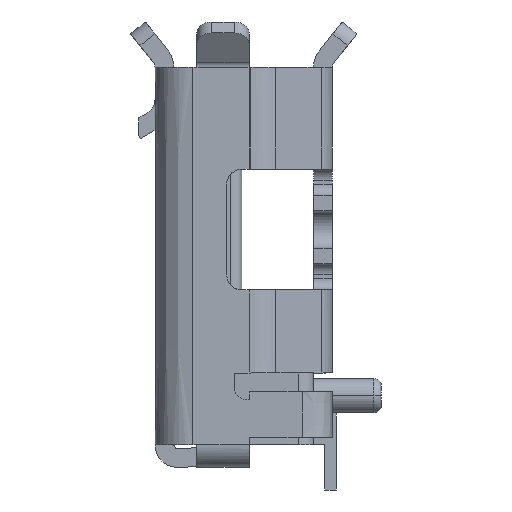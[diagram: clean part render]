
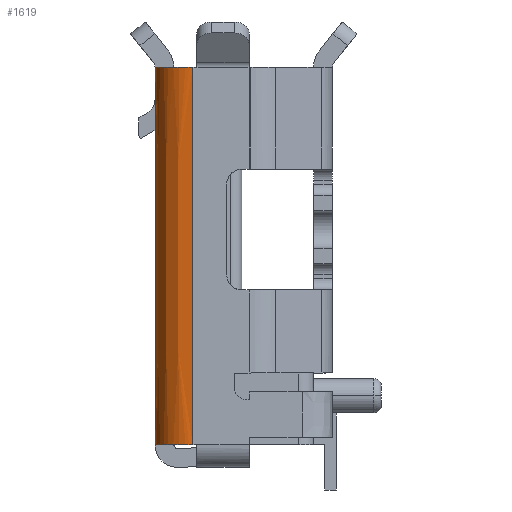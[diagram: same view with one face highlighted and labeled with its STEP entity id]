
A CAD part, left-side view. The second image highlights one B-rep face of the part: STEP entity #1619.
In plain terms, the highlighted face is a extrusion surface.
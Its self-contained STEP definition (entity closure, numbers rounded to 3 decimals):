
#453=CARTESIAN_POINT('Vertex',(-3.2,0.3,-1.5)) ;
#456=CARTESIAN_POINT('Line Origine',(-3.2,0.3,1.)) ;
#460=CARTESIAN_POINT('Vertex',(-3.2,0.3,3.5)) ;
#1560=CARTESIAN_POINT('Vertex',(-3.7,-0.2,-1.5)) ;
#1564=CARTESIAN_POINT('Control Point',(-3.2,0.3,-1.5)) ;
#1565=CARTESIAN_POINT('Control Point',(-3.263,0.3,-1.5)) ;
#1566=CARTESIAN_POINT('Control Point',(-3.326,0.29,-1.5)) ;
#1567=CARTESIAN_POINT('Control Point',(-3.387,0.27,-1.5)) ;
#1568=CARTESIAN_POINT('Control Point',(-3.5,0.212,-1.5)) ;
#1569=CARTESIAN_POINT('Control Point',(-3.59,0.123,-1.5)) ;
#1570=CARTESIAN_POINT('Control Point',(-3.627,0.071,-1.5)) ;
#1571=CARTESIAN_POINT('Control Point',(-3.67,-0.014,-1.5)) ;
#1572=CARTESIAN_POINT('Control Point',(-3.692,-0.106,-1.5)) ;
#1573=CARTESIAN_POINT('Control Point',(-3.697,-0.137,-1.5)) ;
#1574=CARTESIAN_POINT('Control Point',(-3.7,-0.169,-1.5)) ;
#1575=CARTESIAN_POINT('Control Point',(-3.7,-0.2,-1.5)) ;
#1591=CARTESIAN_POINT('Control Point',(-3.2,0.3,-1.5)) ;
#1592=CARTESIAN_POINT('Control Point',(-3.396,0.3,-1.5)) ;
#1593=CARTESIAN_POINT('Control Point',(-3.595,0.195,-1.5)) ;
#1594=CARTESIAN_POINT('Control Point',(-3.7,-0.004,-1.5)) ;
#1595=CARTESIAN_POINT('Control Point',(-3.7,-0.2,-1.5)) ;
#1599=CARTESIAN_POINT('Line Origine',(-3.7,-0.2,-1.5)) ;
#1603=CARTESIAN_POINT('Vertex',(-3.7,-0.2,3.5)) ;
#1607=CARTESIAN_POINT('Control Point',(-3.2,0.3,3.5)) ;
#1608=CARTESIAN_POINT('Control Point',(-3.396,0.3,3.5)) ;
#1609=CARTESIAN_POINT('Control Point',(-3.595,0.195,3.5)) ;
#1610=CARTESIAN_POINT('Control Point',(-3.7,-0.004,3.5)) ;
#1611=CARTESIAN_POINT('Control Point',(-3.7,-0.2,3.5)) ;
#457=DIRECTION('Vector Direction',(0.,0.,1.)) ;
#1596=DIRECTION('Vector Direction',(0.,0.,1.)) ;
#1600=DIRECTION('Vector Direction',(0.,0.,1.)) ;
#1614=ORIENTED_EDGE('',*,*,#462,.F.) ;
#1615=ORIENTED_EDGE('',*,*,#1576,.T.) ;
#1616=ORIENTED_EDGE('',*,*,#1605,.T.) ;
#1617=ORIENTED_EDGE('',*,*,#1612,.F.) ;
#458=VECTOR('Line Direction',#457,1.) ;
#1597=VECTOR('Extrusion Surface Vector',#1596,1.) ;
#1601=VECTOR('Line Direction',#1600,1.) ;
#1619=ADVANCED_FACE('MANIFOLD_SOLID_BREP #21606',(#1618),#1598,.T.) ;
#1563=B_SPLINE_CURVE_WITH_KNOTS('',5,(#1564,#1565,#1566,#1567,#1568,#1569,#1570,#1571,#1572,#1573,#1574,#1575),.UNSPECIFIED.,.F.,.U.,(6,3,3,6),(0.,0.461,0.921,1.151),.UNSPECIFIED.) ;
#1590=B_SPLINE_CURVE_WITH_KNOTS('',4,(#1591,#1592,#1593,#1594,#1595),.UNSPECIFIED.,.F.,.U.,(5,5),(0.,0.842),.UNSPECIFIED.) ;
#1606=B_SPLINE_CURVE_WITH_KNOTS('',4,(#1607,#1608,#1609,#1610,#1611),.UNSPECIFIED.,.F.,.U.,(5,5),(0.,0.842),.UNSPECIFIED.) ;
#462=EDGE_CURVE('',#454,#461,#459,.T.) ;
#1576=EDGE_CURVE('',#454,#1561,#1563,.T.) ;
#1605=EDGE_CURVE('',#1561,#1604,#1602,.T.) ;
#1612=EDGE_CURVE('',#461,#1604,#1606,.T.) ;
#1613=EDGE_LOOP('',(#1614,#1615,#1616,#1617)) ;
#1618=FACE_OUTER_BOUND('',#1613,.T.) ;
#459=LINE('Line',#456,#458) ;
#1602=LINE('Line',#1599,#1601) ;
#1598=SURFACE_OF_LINEAR_EXTRUSION('generated tabulated cylinder',#1590,#1597) ;
#454=VERTEX_POINT('',#453) ;
#461=VERTEX_POINT('',#460) ;
#1561=VERTEX_POINT('',#1560) ;
#1604=VERTEX_POINT('',#1603) ;
